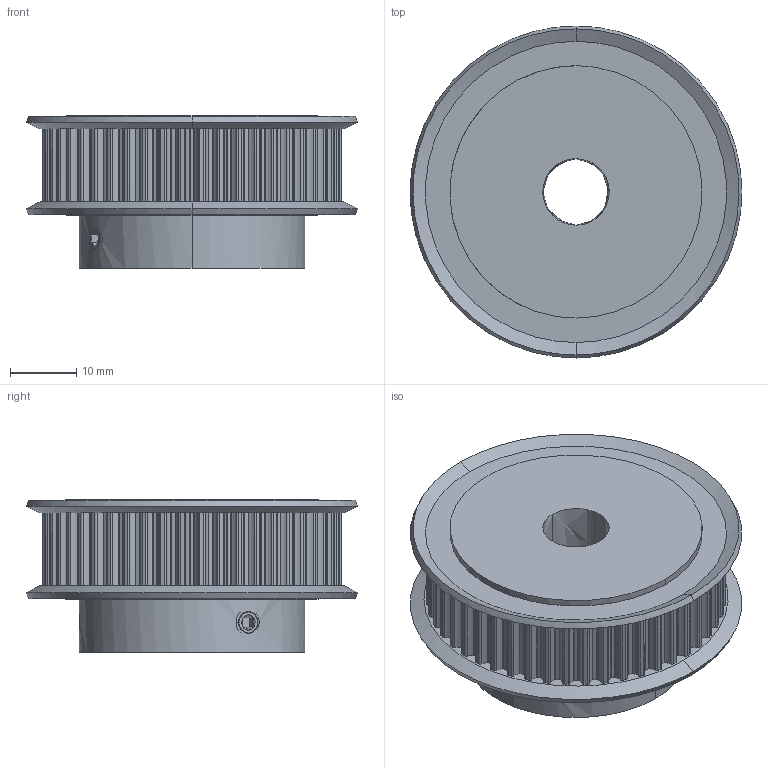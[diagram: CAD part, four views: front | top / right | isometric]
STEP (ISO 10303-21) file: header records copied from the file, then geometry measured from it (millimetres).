
FILE_DESCRIPTION(/* description */ (''),/* implementation_level */ '2;1');
FILE_NAME(/* name */ 'X-4B4E~1',/* time_stamp */ '2014-02-14T19:45:51+01:00',/* author */ (''),/* organization */ (''),/* preprocessor_version */ 'ST-DEVELOPER v14',/* originating_system */ '',/* authorisation */ '');
FILE_SCHEMA (('AUTOMOTIVE_DESIGN'));
Length unit declared in the file: millimetre
Products named in the file (2): Document; pulley GPA48GT3090-A-P12
Assembly tree (1 placements, depth 2):
  Document
    pulley GPA48GT3090-A-P12
Bounding box: 50 x 50 x 23 mm (x, y, z)
Volume: 28191 mm3; surface area: 9433.8 mm2
Topology: 5 solids, 5 shells, 501 faces, 1410 edges, 920 vertices
Faces by surface type: bspline 476, plane 25
Entity records: 38527 total; most frequent: CARTESIAN_POINT 22143, ORIENTED_EDGE 2820, PCURVE 2820, DEFINITIONAL_REPRESENTATION 2820, B_SPLINE_CURVE_WITH_KNOTS 2482, SURFACE_CURVE 1410, EDGE_CURVE 1410, VERTEX_POINT 920
